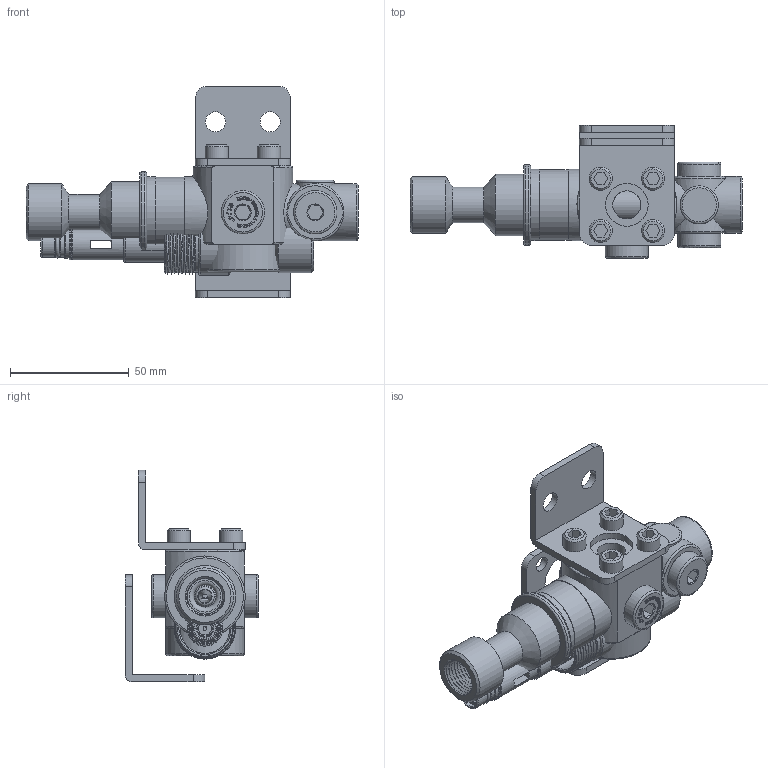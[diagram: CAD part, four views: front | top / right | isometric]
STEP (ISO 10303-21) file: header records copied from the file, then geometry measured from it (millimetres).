
FILE_DESCRIPTION( ( 'Unknown' ), '1' );
FILE_NAME( 'C:/Documents and Settings/Owner/官帕 拳搁/1/VSM 302P-12F-BT12.stp', 'Unknown', ( 'Unknown' ), ( 'Unknown' ), 'PSStep 10.0', 'Unknown', ' ' );
FILE_SCHEMA( ( 'AUTOMOTIVE_DESIGN { 1 0 10303 214 1 1 1 1 }' ) );
Length unit declared in the file: millimetre
Products named in the file (8): Assem1; 302P; speeder moudle_20130528_0; Plug14_New_PPS_0; VC(L)302P_2; Plug14_New_PPS; L-bracket(VSM303)_0; M6XL15
Bounding box: 139.8 x 56.3 x 89.1 mm (x, y, z)
Surface area: 131305.3 mm2 (no closed solid volume)
Topology: 0 solids, 1455 shells, 1464 faces, 6258 edges, 5866 vertices
Faces by surface type: plane 813, cylinder 241, torus 138, cone 119, extrusion 81, bspline 72
Full cylindrical faces by diameter (mm): 4.917 x12, 5.5 x3, 5.9 x5, 6.5 x8, 7 x3, 7.4 x6, 8 x3, 8.5 x10, 9 x9, 9.3 x6, 9.8 x5, 10.8 x6, 11.445 x18, 11.835 x3, 11.9 x3, 13 x3, 13.1 x3, 15 x9, 16 x3, 16.5 x9, 17 x3, 18 x2, 18.2 x9, 18.631 x3, 21 x3, 22.835 x3, 23.5 x3, 24 x9, 25.2 x3, 25.9 x3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
Entity records: 34044 total; most frequent: CARTESIAN_POINT 15138, DIRECTION 2903, ORIENTED_EDGE 1916, EDGE_CURVE 1916, VERTEX_POINT 1916, VECTOR 1119, LINE 1092, AXIS2_PLACEMENT_3D 892
